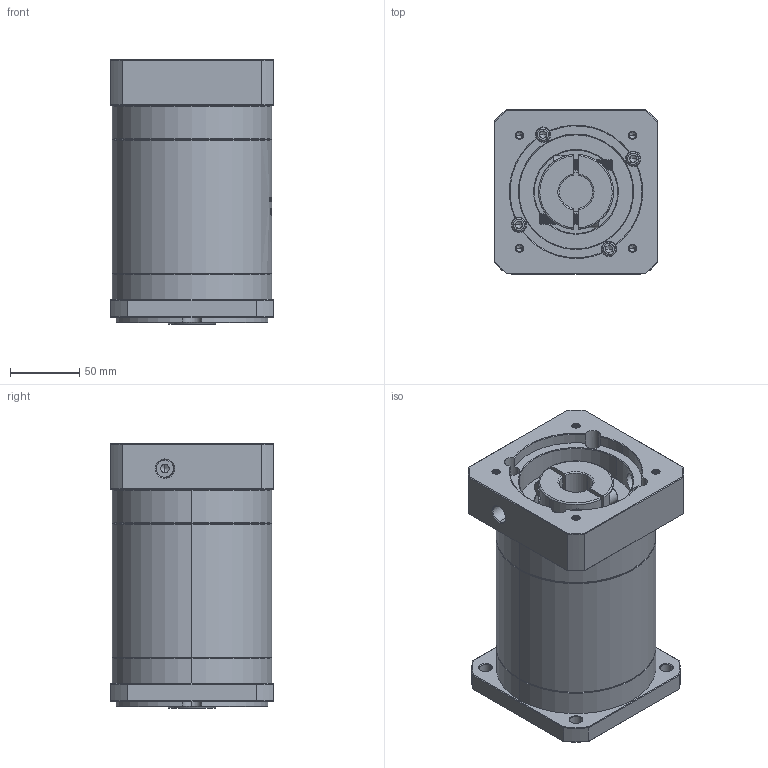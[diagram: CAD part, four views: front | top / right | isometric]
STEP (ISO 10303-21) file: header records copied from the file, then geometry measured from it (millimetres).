
FILE_DESCRIPTION (( 'STEP AP214' ), '1' );
FILE_NAME ('ZF120A-K25-L3-24-95-115-M6.step', '2023-03-07T09:39:55', ( '' ), ( '' ), 'SwSTEP 2.0', 'SolidWorks 2016', '' );
FILE_SCHEMA (( 'AUTOMOTIVE_DESIGN' ));
Length unit declared in the file: millimetre
Products named in the file (1): ZF120A-K25-L3-24-95-115-M6
Bounding box: 118 x 118 x 190.5 mm (x, y, z)
Volume: 1909632.4 mm3; surface area: 175808.4 mm2
Topology: 6 solids, 6 shells, 1906 faces, 5014 edges, 3202 vertices
Faces by surface type: plane 850, cylinder 388, cone 336, bspline 332
Entity records: 101590 total; most frequent: CARTESIAN_POINT 37130, ORIENTED_EDGE 9972, DIRECTION 7788, EDGE_CURVE 4986, VERTEX_POINT 3202, LINE 2700, VECTOR 2700, AXIS2_PLACEMENT_3D 2544
